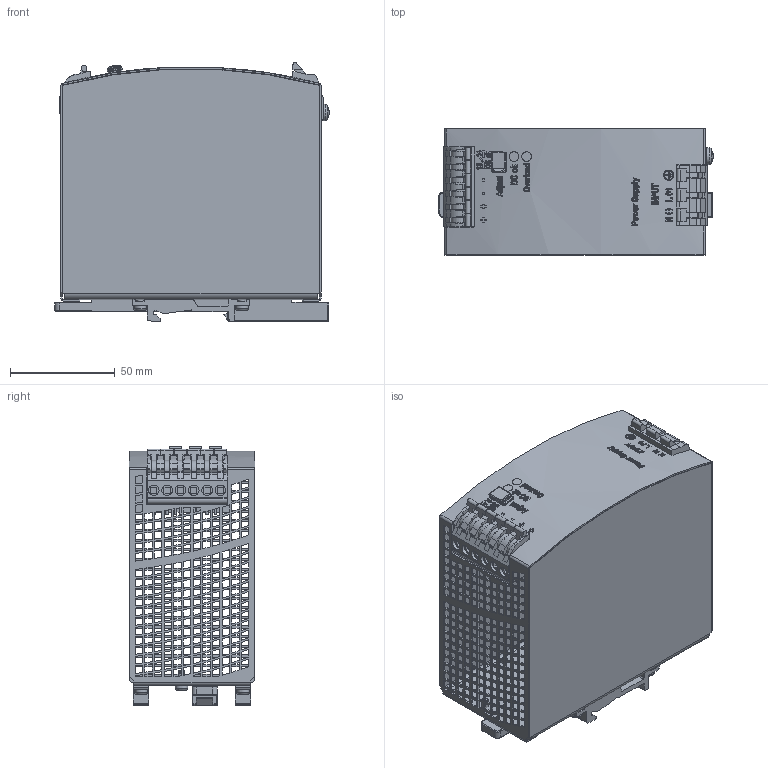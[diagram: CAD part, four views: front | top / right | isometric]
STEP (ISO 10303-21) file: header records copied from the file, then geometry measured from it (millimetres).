
FILE_DESCRIPTION(/* description */ (''),/* implementation_level */ '2;1');
FILE_NAME(/* name */ 'H:\My Documents\POOLP2\Desktop\md3_qs10_481-d1.stp',/* time_stamp */ '2021-06-23T09:26:08+02:00',/* author */ ('rahns'),/* organization */ (''),/* preprocessor_version */ 'ST-DEVELOPER v18.1',/* originating_system */ 'Autodesk Inventor 2020',/* authorisation */ '');
FILE_SCHEMA (('AUTOMOTIVE_DESIGN { 1 0 10303 214 3 1 1 }'));
Products named in the file (13): 339.65; HOUSING COVER 339.65; HOUSING BODY 339.00; MKT_LP3SW-95; MKT_LP6SW-96; MKT_SCREW 4x8; MKT_T HOLDER1; MKT_SCREW 3x6; MKT_SLIDER; MKT_POTI COVER; MKT_LED GN; MKT_LED RD; MKT_WASHER 4
Assembly tree (18 placements, depth 2):
  339.65
    HOUSING COVER 339.65
    HOUSING BODY 339.00
    MKT_LP3SW-95
    MKT_LP6SW-96
    MKT_SCREW 4x8
    MKT_T HOLDER1  x2
    MKT_SCREW 3x6  x6
    MKT_SLIDER
    MKT_POTI COVER
    MKT_LED GN
    MKT_LED RD
    MKT_WASHER 4
Bounding box: 130.77 x 60 x 123.54 mm (x, y, z)
Volume: 93393.5 mm3; surface area: 119835.6 mm2
Topology: 19 solids, 19 shells, 3247 faces, 9275 edges, 6178 vertices
Faces by surface type: plane 2519, bspline 351, cylinder 319, torus 25, cone 20, sphere 13
Full cylindrical faces by diameter (mm): 1.25 x9, 2.45 x2, 3 x6, 3.1 x4, 3.621 x1, 4 x1, 4.355 x1, 4.5 x1, 4.6 x2, 5 x6, 5.5 x3, 6 x6
Entity records: 184101 total; most frequent: CARTESIAN_POINT 102849, ORIENTED_EDGE 17774, DIRECTION 14099, EDGE_CURVE 8887, LINE 7201, VECTOR 7201, VERTEX_POINT 5916, EDGE_LOOP 4089
